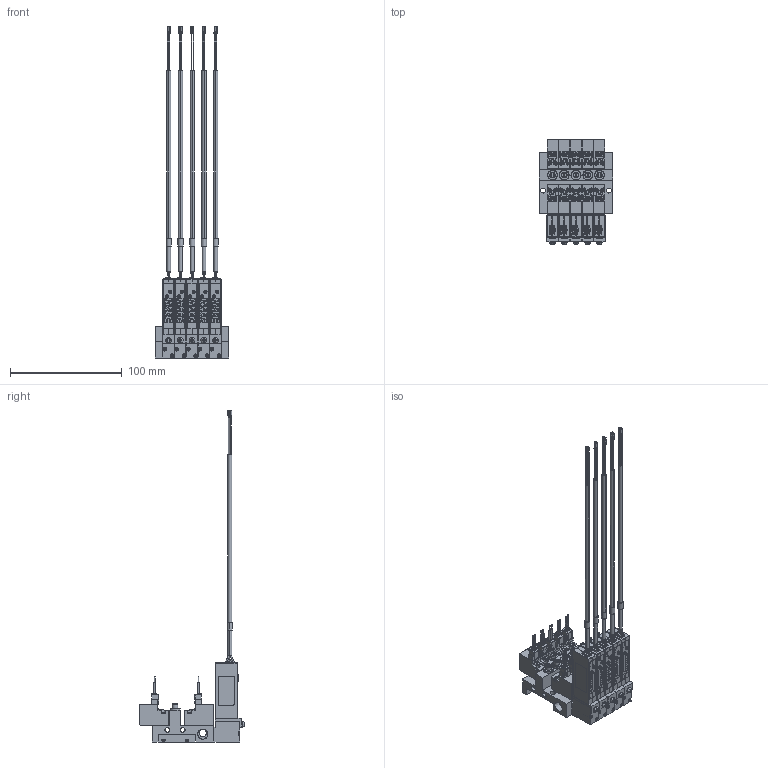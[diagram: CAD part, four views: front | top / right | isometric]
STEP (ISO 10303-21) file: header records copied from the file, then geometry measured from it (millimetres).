
FILE_DESCRIPTION(('STEP AP203'),'1');
FILE_NAME('1-NO(NC)-4EZ-M05-V9.stp','2025-05-08T08:50:05',(' '),(' '),'Spatial InterOp 3D',' ',' ');
FILE_SCHEMA(('CONFIG_CONTROL_DESIGN'));
Length unit declared in the file: millimetre
Products named in the file (167): PV1※1-NO(NC)-4EZ-M05-V9; BODY; PLATE; NEEDLE; BOLT; SOLENOID VALVE VOLTAGE PV; 42; 45; 48; 51; BRAKET(MPS-V9  PV용)NEW; BRAKET; MPS-V9AC.ics; __1; MPS-V9AC; MSBR-29_1; MSBR-28_1; MSBR-27_1; MSBR-26_1; MSBR-25_1; MSBR-24_1; MSBR-21_1; MSBR-7_1; MSBR-4_1; MSBR-1_1
Assembly tree (166 placements, depth 5):
  PV1※1-NO(NC)-4EZ-M05-V9
    BODY
    PLATE
    PLATE
    NEEDLE
    BOLT
    BOLT
    BOLT
    BOLT
    BOLT
    BOLT
    SOLENOID VALVE VOLTAGE PV
      42
      45
      48
      51
    SOLENOID VALVE VOLTAGE PV
      42
      45
      48
      51
    SOLENOID VALVE VOLTAGE PV
      42
      45
      48
      51
    NEEDLE
    SOLENOID VALVE VOLTAGE PV
      42
      45
      48
      51
    SOLENOID VALVE VOLTAGE PV
      42
      45
      48
      51
    NEEDLE
    SOLENOID VALVE VOLTAGE PV
      42
      45
      48
      51
    PLATE
    BOLT
    BOLT
    BOLT
    PLATE
    BOLT
    BOLT
    BOLT
    SOLENOID VALVE VOLTAGE PV
      42
      45
      48
      51
    NEEDLE
    SOLENOID VALVE VOLTAGE PV
      42
      45
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Bounding box: 66 x 94.29 x 297.25 mm (x, y, z)
Volume: 136805.6 mm3; surface area: 124746.2 mm2
Topology: 136 solids, 181 shells, 6530 faces, 17907 edges, 12136 vertices
Faces by surface type: plane 4986, cylinder 1157, torus 165, bspline 95, cone 57, extrusion 50, sphere 20
Full cylindrical faces by diameter (mm): 2 x15, 2.3 x10, 2.5 x5, 3 x25, 4.2 x12, 4.5 x2, 5 x10, 6.5 x1, 8.797 x2, 9 x5
Entity records: 217450 total; most frequent: CARTESIAN_POINT 41724, ORIENTED_EDGE 34784, DIRECTION 33997, EDGE_CURVE 17582, VECTOR 13191, LINE 13141, VERTEX_POINT 12030, AXIS2_PLACEMENT_3D 10403
